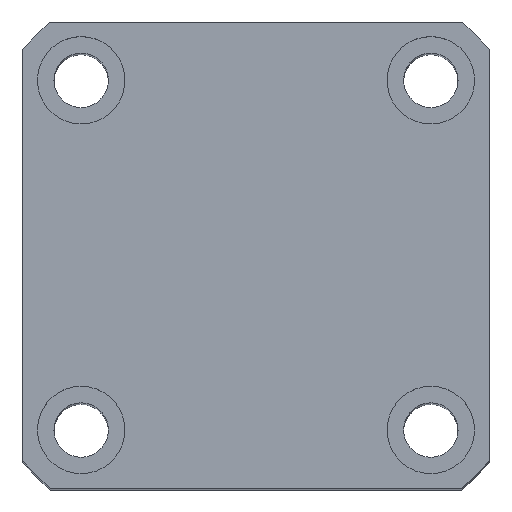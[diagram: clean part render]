
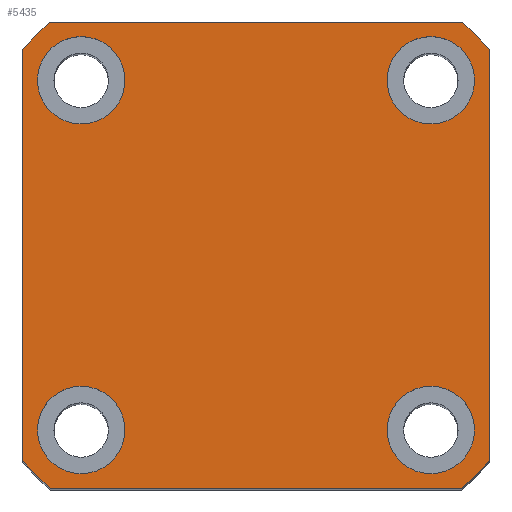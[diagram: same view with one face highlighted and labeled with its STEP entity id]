
A CAD part, top view. The second image highlights one B-rep face of the part: STEP entity #5435.
In plain terms, the highlighted planar face has unit normal (0, 0, 1) as drawn and (1, 0, 0) by its records, which use the part's own axes.
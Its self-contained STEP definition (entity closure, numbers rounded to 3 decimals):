
#8 = CARTESIAN_POINT ( 'NONE',  ( 105., -18., -18. ) ) ;
#47 = DIRECTION ( 'NONE',  ( 0., 0., -1. ) ) ;
#204 = VERTEX_POINT ( 'NONE', #5219 ) ;
#205 = ORIENTED_EDGE ( 'NONE', *, *, #3156, .T. ) ;
#308 = AXIS2_PLACEMENT_3D ( 'NONE', #6321, #6286, #6224 ) ;
#323 = CARTESIAN_POINT ( 'NONE',  ( 105., 18., -18. ) ) ;
#382 = LINE ( 'NONE', #6836, #4599 ) ;
#563 = DIRECTION ( 'NONE',  ( 0., 0., -1. ) ) ;
#656 = AXIS2_PLACEMENT_3D ( 'NONE', #8, #5908, #836 ) ;
#719 = ORIENTED_EDGE ( 'NONE', *, *, #6176, .T. ) ;
#724 = EDGE_CURVE ( 'NONE', #1882, #9922, #5812, .T. ) ;
#771 = VERTEX_POINT ( 'NONE', #4426 ) ;
#820 = VERTEX_POINT ( 'NONE', #5413 ) ;
#836 = DIRECTION ( 'NONE',  ( 0., 0., -1. ) ) ;
#900 = CARTESIAN_POINT ( 'NONE',  ( 105., 24., 21.166 ) ) ;
#1084 = AXIS2_PLACEMENT_3D ( 'NONE', #4446, #4475, #4485 ) ;
#1173 = DIRECTION ( 'NONE',  ( 0., 0., -1. ) ) ;
#1267 = EDGE_CURVE ( 'NONE', #1862, #5718, #8120, .T. ) ;
#1347 = CIRCLE ( 'NONE', #656, 4.5 ) ;
#1500 = EDGE_CURVE ( 'NONE', #3908, #1882, #382, .T. ) ;
#1503 = ORIENTED_EDGE ( 'NONE', *, *, #9834, .F. ) ;
#1527 = DIRECTION ( 'NONE',  ( 0., 0., -1. ) ) ;
#1538 = DIRECTION ( 'NONE',  ( 1., 0., 0. ) ) ;
#1539 = CARTESIAN_POINT ( 'NONE',  ( 105., 0., 0. ) ) ;
#1645 = CARTESIAN_POINT ( 'NONE',  ( 105., 24., 24. ) ) ;
#1667 = FACE_OUTER_BOUND ( 'NONE', #5434, .T. ) ;
#1767 = AXIS2_PLACEMENT_3D ( 'NONE', #5007, #10771, #5872 ) ;
#1862 = VERTEX_POINT ( 'NONE', #9404 ) ;
#1874 = CARTESIAN_POINT ( 'NONE',  ( 105., 18., -18. ) ) ;
#1882 = VERTEX_POINT ( 'NONE', #4507 ) ;
#2105 = LINE ( 'NONE', #5390, #6454 ) ;
#2387 = AXIS2_PLACEMENT_3D ( 'NONE', #8279, #8247, #8171 ) ;
#2621 = DIRECTION ( 'NONE',  ( 1., 0., 0. ) ) ;
#2729 = DIRECTION ( 'NONE',  ( 0., 0., -1. ) ) ;
#2932 = CARTESIAN_POINT ( 'NONE',  ( 105., 21.166, 24. ) ) ;
#3079 = VERTEX_POINT ( 'NONE', #5159 ) ;
#3086 = ORIENTED_EDGE ( 'NONE', *, *, #7888, .T. ) ;
#3156 = EDGE_CURVE ( 'NONE', #9922, #5448, #5139, .T. ) ;
#3203 = ORIENTED_EDGE ( 'NONE', *, *, #4362, .F. ) ;
#3215 = CARTESIAN_POINT ( 'NONE',  ( 105., -18., -13.5 ) ) ;
#3335 = VERTEX_POINT ( 'NONE', #3215 ) ;
#3360 = VERTEX_POINT ( 'NONE', #2932 ) ;
#3621 = EDGE_CURVE ( 'NONE', #6154, #3360, #7994, .T. ) ;
#3889 = CARTESIAN_POINT ( 'NONE',  ( 105., 21.166, -24. ) ) ;
#3903 = EDGE_LOOP ( 'NONE', ( #3203, #1503 ) ) ;
#3908 = VERTEX_POINT ( 'NONE', #9124 ) ;
#3922 = FACE_BOUND ( 'NONE', #10489, .T. ) ;
#3988 = DIRECTION ( 'NONE',  ( 0., 0., -1. ) ) ;
#4005 = ORIENTED_EDGE ( 'NONE', *, *, #9855, .F. ) ;
#4028 = DIRECTION ( 'NONE',  ( 1., 0., 0. ) ) ;
#4131 = PLANE ( 'NONE',  #8873 ) ;
#4182 = FACE_BOUND ( 'NONE', #7375, .T. ) ;
#4193 = CIRCLE ( 'NONE', #4868, 4.5 ) ;
#4324 = EDGE_CURVE ( 'NONE', #820, #6154, #2105, .T. ) ;
#4360 = AXIS2_PLACEMENT_3D ( 'NONE', #9446, #4491, #10257 ) ;
#4362 = EDGE_CURVE ( 'NONE', #5092, #3335, #4193, .T. ) ;
#4426 = CARTESIAN_POINT ( 'NONE',  ( 105., -18., 13.5 ) ) ;
#4446 = CARTESIAN_POINT ( 'NONE',  ( 105., 0., 0. ) ) ;
#4475 = DIRECTION ( 'NONE',  ( 1., 0., 0. ) ) ;
#4485 = DIRECTION ( 'NONE',  ( 0., 0., -1. ) ) ;
#4491 = DIRECTION ( 'NONE',  ( 1., 0., 0. ) ) ;
#4507 = CARTESIAN_POINT ( 'NONE',  ( 105., -24., -21.166 ) ) ;
#4588 = CARTESIAN_POINT ( 'NONE',  ( 105., 0., 0. ) ) ;
#4599 = VECTOR ( 'NONE', #7010, 1000. ) ;
#4615 = AXIS2_PLACEMENT_3D ( 'NONE', #9993, #5074, #47 ) ;
#4646 = CARTESIAN_POINT ( 'NONE',  ( 105., 24., -24. ) ) ;
#4669 = CIRCLE ( 'NONE', #1767, 32. ) ;
#4739 = EDGE_CURVE ( 'NONE', #5718, #1862, #6580, .T. ) ;
#4743 = DIRECTION ( 'NONE',  ( 0., 1., 0. ) ) ;
#4765 = CARTESIAN_POINT ( 'NONE',  ( 105., -18., -18. ) ) ;
#4808 = ORIENTED_EDGE ( 'NONE', *, *, #7043, .T. ) ;
#4839 = DIRECTION ( 'NONE',  ( 1., 0., 0. ) ) ;
#4868 = AXIS2_PLACEMENT_3D ( 'NONE', #4765, #4839, #563 ) ;
#5007 = CARTESIAN_POINT ( 'NONE',  ( 105., 0., 0. ) ) ;
#5074 = DIRECTION ( 'NONE',  ( 1., 0., 0. ) ) ;
#5092 = VERTEX_POINT ( 'NONE', #7360 ) ;
#5139 = LINE ( 'NONE', #4646, #6213 ) ;
#5159 = CARTESIAN_POINT ( 'NONE',  ( 105., -21.166, 24. ) ) ;
#5219 = CARTESIAN_POINT ( 'NONE',  ( 105., 18., -13.5 ) ) ;
#5390 = CARTESIAN_POINT ( 'NONE',  ( 105., 24., 24. ) ) ;
#5413 = CARTESIAN_POINT ( 'NONE',  ( 105., 24., -21.166 ) ) ;
#5427 = CIRCLE ( 'NONE', #8822, 4.5 ) ;
#5434 = EDGE_LOOP ( 'NONE', ( #205, #719, #6030, #6547, #4808, #3086, #9085, #5490 ) ) ;
#5435 = ADVANCED_FACE ( 'NONE', ( #6197, #4182, #10506, #3922, #1667 ), #4131, .T. ) ;
#5448 = VERTEX_POINT ( 'NONE', #3889 ) ;
#5490 = ORIENTED_EDGE ( 'NONE', *, *, #724, .T. ) ;
#5574 = CIRCLE ( 'NONE', #4615, 4.5 ) ;
#5609 = ORIENTED_EDGE ( 'NONE', *, *, #1267, .F. ) ;
#5718 = VERTEX_POINT ( 'NONE', #8586 ) ;
#5735 = CIRCLE ( 'NONE', #10467, 4.5 ) ;
#5812 = CIRCLE ( 'NONE', #1084, 32. ) ;
#5872 = DIRECTION ( 'NONE',  ( 0., 0., -1. ) ) ;
#5908 = DIRECTION ( 'NONE',  ( 1., 0., 0. ) ) ;
#5947 = CARTESIAN_POINT ( 'NONE',  ( 105., -21.166, -24. ) ) ;
#6016 = ORIENTED_EDGE ( 'NONE', *, *, #6437, .F. ) ;
#6030 = ORIENTED_EDGE ( 'NONE', *, *, #4324, .T. ) ;
#6154 = VERTEX_POINT ( 'NONE', #900 ) ;
#6176 = EDGE_CURVE ( 'NONE', #5448, #820, #9861, .T. ) ;
#6197 = FACE_BOUND ( 'NONE', #3903, .T. ) ;
#6213 = VECTOR ( 'NONE', #4743, 1000. ) ;
#6224 = DIRECTION ( 'NONE',  ( 0., 0., -1. ) ) ;
#6234 = DIRECTION ( 'NONE',  ( 1., 0., 0. ) ) ;
#6286 = DIRECTION ( 'NONE',  ( 1., 0., 0. ) ) ;
#6295 = AXIS2_PLACEMENT_3D ( 'NONE', #7644, #2621, #8458 ) ;
#6306 = LINE ( 'NONE', #1645, #8454 ) ;
#6321 = CARTESIAN_POINT ( 'NONE',  ( 105., 18., 18. ) ) ;
#6356 = CARTESIAN_POINT ( 'NONE',  ( 105., 18., -22.5 ) ) ;
#6437 = EDGE_CURVE ( 'NONE', #771, #8073, #10773, .T. ) ;
#6454 = VECTOR ( 'NONE', #9448, 1000. ) ;
#6547 = ORIENTED_EDGE ( 'NONE', *, *, #3621, .T. ) ;
#6580 = CIRCLE ( 'NONE', #2387, 4.5 ) ;
#6693 = VERTEX_POINT ( 'NONE', #6356 ) ;
#6716 = DIRECTION ( 'NONE',  ( 0., -1., 0. ) ) ;
#6836 = CARTESIAN_POINT ( 'NONE',  ( 105., -24., 24. ) ) ;
#7010 = DIRECTION ( 'NONE',  ( 0., 0., -1. ) ) ;
#7043 = EDGE_CURVE ( 'NONE', #3360, #3079, #6306, .T. ) ;
#7360 = CARTESIAN_POINT ( 'NONE',  ( 105., -18., -22.5 ) ) ;
#7375 = EDGE_LOOP ( 'NONE', ( #6016, #4005 ) ) ;
#7644 = CARTESIAN_POINT ( 'NONE',  ( 105., 0., 0. ) ) ;
#7757 = DIRECTION ( 'NONE',  ( 1., 0., 0. ) ) ;
#7888 = EDGE_CURVE ( 'NONE', #3079, #3908, #4669, .T. ) ;
#7914 = CARTESIAN_POINT ( 'NONE',  ( 105., -18., 22.5 ) ) ;
#7994 = CIRCLE ( 'NONE', #10247, 32. ) ;
#8073 = VERTEX_POINT ( 'NONE', #7914 ) ;
#8120 = CIRCLE ( 'NONE', #308, 4.5 ) ;
#8171 = DIRECTION ( 'NONE',  ( 0., 0., -1. ) ) ;
#8247 = DIRECTION ( 'NONE',  ( 1., 0., 0. ) ) ;
#8279 = CARTESIAN_POINT ( 'NONE',  ( 105., 18., 18. ) ) ;
#8397 = EDGE_CURVE ( 'NONE', #6693, #204, #5735, .T. ) ;
#8454 = VECTOR ( 'NONE', #6716, 1000. ) ;
#8458 = DIRECTION ( 'NONE',  ( 0., 0., -1. ) ) ;
#8586 = CARTESIAN_POINT ( 'NONE',  ( 105., 18., 22.5 ) ) ;
#8822 = AXIS2_PLACEMENT_3D ( 'NONE', #323, #6234, #1173 ) ;
#8873 = AXIS2_PLACEMENT_3D ( 'NONE', #4588, #4028, #3988 ) ;
#8942 = ORIENTED_EDGE ( 'NONE', *, *, #10736, .F. ) ;
#9085 = ORIENTED_EDGE ( 'NONE', *, *, #1500, .T. ) ;
#9124 = CARTESIAN_POINT ( 'NONE',  ( 105., -24., 21.166 ) ) ;
#9404 = CARTESIAN_POINT ( 'NONE',  ( 105., 18., 13.5 ) ) ;
#9446 = CARTESIAN_POINT ( 'NONE',  ( 105., -18., 18. ) ) ;
#9448 = DIRECTION ( 'NONE',  ( 0., 0., 1. ) ) ;
#9834 = EDGE_CURVE ( 'NONE', #3335, #5092, #1347, .T. ) ;
#9855 = EDGE_CURVE ( 'NONE', #8073, #771, #5574, .T. ) ;
#9861 = CIRCLE ( 'NONE', #6295, 32. ) ;
#9922 = VERTEX_POINT ( 'NONE', #5947 ) ;
#9993 = CARTESIAN_POINT ( 'NONE',  ( 105., -18., 18. ) ) ;
#10236 = EDGE_LOOP ( 'NONE', ( #10595, #8942 ) ) ;
#10247 = AXIS2_PLACEMENT_3D ( 'NONE', #1539, #1538, #1527 ) ;
#10257 = DIRECTION ( 'NONE',  ( 0., 0., -1. ) ) ;
#10467 = AXIS2_PLACEMENT_3D ( 'NONE', #1874, #7757, #2729 ) ;
#10473 = ORIENTED_EDGE ( 'NONE', *, *, #4739, .F. ) ;
#10489 = EDGE_LOOP ( 'NONE', ( #5609, #10473 ) ) ;
#10506 = FACE_BOUND ( 'NONE', #10236, .T. ) ;
#10595 = ORIENTED_EDGE ( 'NONE', *, *, #8397, .F. ) ;
#10736 = EDGE_CURVE ( 'NONE', #204, #6693, #5427, .T. ) ;
#10771 = DIRECTION ( 'NONE',  ( 1., 0., 0. ) ) ;
#10773 = CIRCLE ( 'NONE', #4360, 4.5 ) ;
